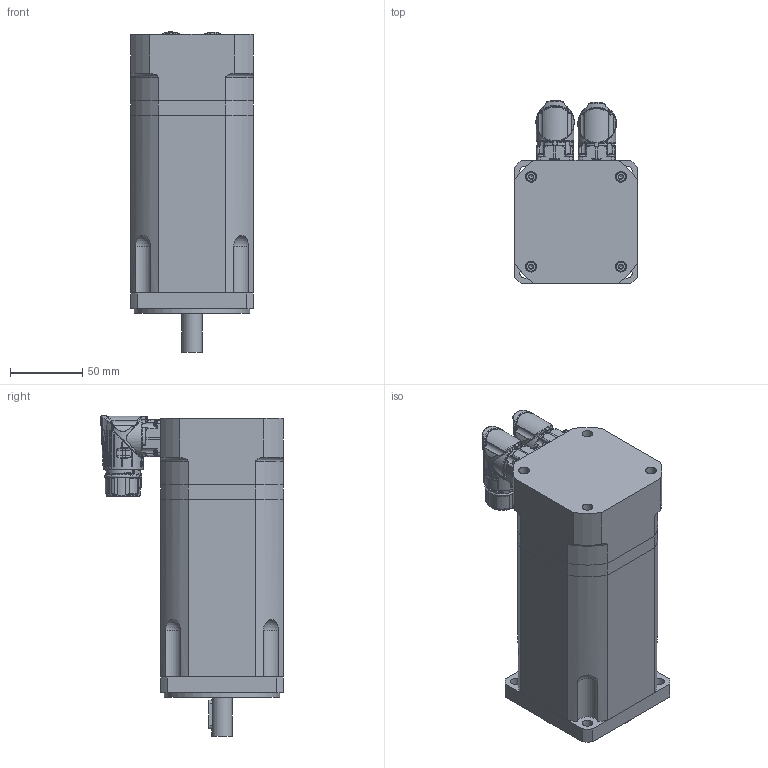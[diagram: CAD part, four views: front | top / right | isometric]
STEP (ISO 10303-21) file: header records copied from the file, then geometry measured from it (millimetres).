
FILE_DESCRIPTION(/* description */ (''),/* implementation_level */ '2;1');
FILE_NAME(/* name */ 'C:\Users\Public\Documents\Autodesk\Inventor LT 2014\Workspace\TG3\DSM5_3x_xxx7\DSM5_33_xxx7.stp',/* time_stamp */ '2016-04-28T10:17:36+02:00',/* author */ ('motion'),/* organization */ (''),/* preprocessor_version */ 'ST-DEVELOPER v15.2',/* originating_system */ 'Autodesk Inventor LT ',/* authorisation */ '');
FILE_SCHEMA (('AUTOMOTIVE_DESIGN { 1 0 10303 214 3 1 1 }'));
Products named in the file (1): DSM5_33_xxx7
Bounding box: 85 x 126.43 x 221.81 mm (x, y, z)
Volume: 1336672.6 mm3; surface area: 143550.3 mm2
Topology: 15 solids, 17 shells, 3061 faces, 7703 edges, 4630 vertices
Faces by surface type: cylinder 880, bspline 853, plane 596, torus 382, cone 229, sphere 121
Full cylindrical faces by diameter (mm): 1.2 x17, 2 x6, 2.15 x6, 2.224 x8, 2.5 x8, 2.7 x8, 3 x1, 4 x8, 4.134 x1, 4.5 x2, 5 x4, 5.5 x3, 5.9 x2, 7 x12, 7.2 x4, 7.5 x4, 14 x1, 15 x1, 15.2 x1, 19.1 x1, 21.6 x1, 22.5 x1, 23 x2, 24.4 x1, 28 x1, 35 x2, 60 x1, 80 x1
Entity records: 189383 total; most frequent: CARTESIAN_POINT 120010, ORIENTED_EDGE 14494, DIRECTION 12705, EDGE_CURVE 7247, AXIS2_PLACEMENT_3D 5470, VERTEX_POINT 4541, EDGE_LOOP 3460, ADVANCED_FACE 3057
